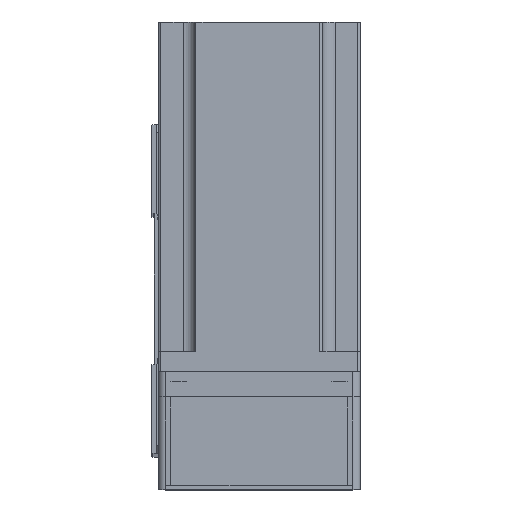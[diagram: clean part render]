
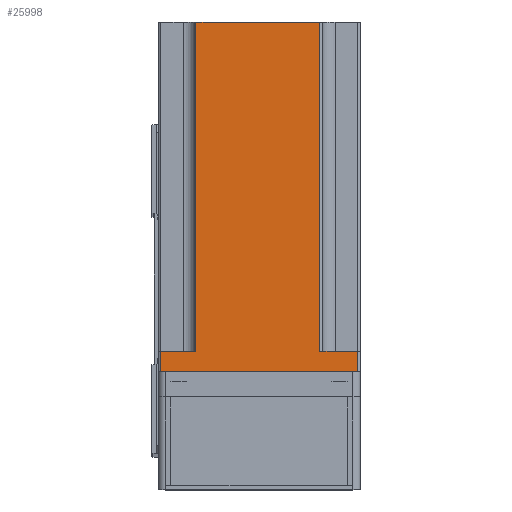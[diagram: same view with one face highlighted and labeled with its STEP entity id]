
A CAD part, top view. The second image highlights one B-rep face of the part: STEP entity #25998.
In plain terms, the highlighted planar face has unit normal (0, 0, 1) as drawn and (-1, 0, 0) by its records, which use the part's own axes.
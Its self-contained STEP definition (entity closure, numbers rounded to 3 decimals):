
#2363 = CARTESIAN_POINT ( 'NONE',  ( -40., 40., 8. ) ) ;
#2547 = EDGE_CURVE ( 'NONE', #34989, #41357, #35506, .T. ) ;
#2578 = LINE ( 'NONE', #46909, #40311 ) ;
#2698 = VERTEX_POINT ( 'NONE', #26356 ) ;
#4280 = VECTOR ( 'NONE', #38152, 1000. ) ;
#4619 = CARTESIAN_POINT ( 'NONE',  ( -40., -40., 138.3 ) ) ;
#6040 = ORIENTED_EDGE ( 'NONE', *, *, #11472, .T. ) ;
#6618 = EDGE_CURVE ( 'NONE', #23164, #2698, #34408, .T. ) ;
#8080 = PLANE ( 'NONE',  #32389 ) ;
#8412 = DIRECTION ( 'NONE',  ( 0., 0., -1. ) ) ;
#8739 = LINE ( 'NONE', #2363, #38853 ) ;
#9239 = EDGE_CURVE ( 'NONE', #32594, #10549, #45275, .T. ) ;
#9997 = FACE_OUTER_BOUND ( 'NONE', #12896, .T. ) ;
#10549 = VERTEX_POINT ( 'NONE', #41187 ) ;
#11472 = EDGE_CURVE ( 'NONE', #2698, #36339, #2578, .T. ) ;
#11570 = ORIENTED_EDGE ( 'NONE', *, *, #41049, .T. ) ;
#11874 = CARTESIAN_POINT ( 'NONE',  ( -40., -40., 138.3 ) ) ;
#12274 = ORIENTED_EDGE ( 'NONE', *, *, #2547, .T. ) ;
#12896 = EDGE_LOOP ( 'NONE', ( #30906, #12274, #31637, #27885, #19857, #11570, #24184, #6040 ) ) ;
#14313 = DIRECTION ( 'NONE',  ( 0., 0., 1. ) ) ;
#15703 = DIRECTION ( 'NONE',  ( 0., -1., 0. ) ) ;
#17597 = DIRECTION ( 'NONE',  ( 0., 0., 1. ) ) ;
#17686 = LINE ( 'NONE', #46154, #46585 ) ;
#18112 = CARTESIAN_POINT ( 'NONE',  ( -40., 39., 0. ) ) ;
#19857 = ORIENTED_EDGE ( 'NONE', *, *, #23573, .T. ) ;
#22767 = EDGE_CURVE ( 'NONE', #10549, #41357, #28381, .T. ) ;
#23164 = VERTEX_POINT ( 'NONE', #18112 ) ;
#23573 = EDGE_CURVE ( 'NONE', #32594, #30094, #8739, .T. ) ;
#23842 = DIRECTION ( 'NONE',  ( 0., 0., -1. ) ) ;
#24184 = ORIENTED_EDGE ( 'NONE', *, *, #6618, .T. ) ;
#25455 = VECTOR ( 'NONE', #14313, 1000. ) ;
#25998 = ADVANCED_FACE ( 'NONE', ( #9997 ), #8080, .F. ) ;
#26356 = CARTESIAN_POINT ( 'NONE',  ( -40., -39., 0. ) ) ;
#27885 = ORIENTED_EDGE ( 'NONE', *, *, #9239, .F. ) ;
#28381 = LINE ( 'NONE', #11874, #47225 ) ;
#28800 = DIRECTION ( 'NONE',  ( 0., 1., 0. ) ) ;
#28903 = LINE ( 'NONE', #46397, #48932 ) ;
#29814 = CARTESIAN_POINT ( 'NONE',  ( -40., 39., 8. ) ) ;
#30094 = VERTEX_POINT ( 'NONE', #29814 ) ;
#30580 = CARTESIAN_POINT ( 'NONE',  ( -40., -40., 0. ) ) ;
#30906 = ORIENTED_EDGE ( 'NONE', *, *, #37236, .F. ) ;
#31034 = DIRECTION ( 'NONE',  ( 1., 0., 0. ) ) ;
#31637 = ORIENTED_EDGE ( 'NONE', *, *, #22767, .F. ) ;
#31760 = DIRECTION ( 'NONE',  ( 0., 0., 1. ) ) ;
#32389 = AXIS2_PLACEMENT_3D ( 'NONE', #4619, #31034, #8412 ) ;
#32594 = VERTEX_POINT ( 'NONE', #48128 ) ;
#33393 = CARTESIAN_POINT ( 'NONE',  ( -40., -24., 138.3 ) ) ;
#34131 = VECTOR ( 'NONE', #17597, 1000. ) ;
#34408 = LINE ( 'NONE', #30580, #4280 ) ;
#34989 = VERTEX_POINT ( 'NONE', #44190 ) ;
#35506 = LINE ( 'NONE', #40479, #25455 ) ;
#36339 = VERTEX_POINT ( 'NONE', #48566 ) ;
#36560 = CARTESIAN_POINT ( 'NONE',  ( -40., 25., 8. ) ) ;
#37236 = EDGE_CURVE ( 'NONE', #34989, #36339, #17686, .T. ) ;
#38152 = DIRECTION ( 'NONE',  ( 0., -1., 0. ) ) ;
#38853 = VECTOR ( 'NONE', #28800, 1000. ) ;
#40311 = VECTOR ( 'NONE', #31760, 1000. ) ;
#40479 = CARTESIAN_POINT ( 'NONE',  ( -40., -24., 138.3 ) ) ;
#41049 = EDGE_CURVE ( 'NONE', #30094, #23164, #28903, .T. ) ;
#41187 = CARTESIAN_POINT ( 'NONE',  ( -40., 25., 138.3 ) ) ;
#41357 = VERTEX_POINT ( 'NONE', #33393 ) ;
#42345 = DIRECTION ( 'NONE',  ( 0., -1., 0. ) ) ;
#44190 = CARTESIAN_POINT ( 'NONE',  ( -40., -24., 8. ) ) ;
#45275 = LINE ( 'NONE', #36560, #34131 ) ;
#46154 = CARTESIAN_POINT ( 'NONE',  ( -40., -40., 8. ) ) ;
#46397 = CARTESIAN_POINT ( 'NONE',  ( -40., 39., 138.3 ) ) ;
#46585 = VECTOR ( 'NONE', #42345, 1000. ) ;
#46909 = CARTESIAN_POINT ( 'NONE',  ( -40., -39., 138.3 ) ) ;
#47225 = VECTOR ( 'NONE', #15703, 1000. ) ;
#48128 = CARTESIAN_POINT ( 'NONE',  ( -40., 25., 8. ) ) ;
#48566 = CARTESIAN_POINT ( 'NONE',  ( -40., -39., 8. ) ) ;
#48932 = VECTOR ( 'NONE', #23842, 1000. ) ;
